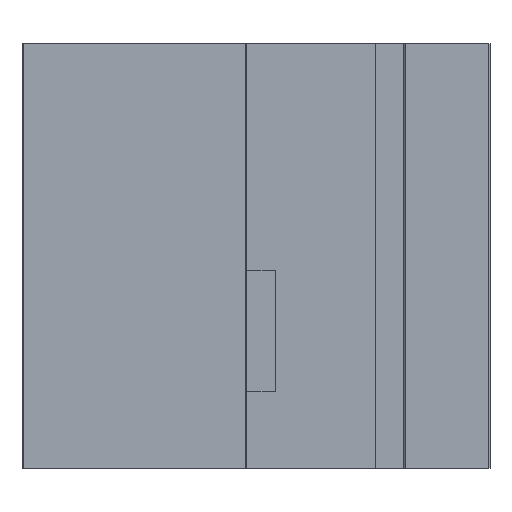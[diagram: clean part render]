
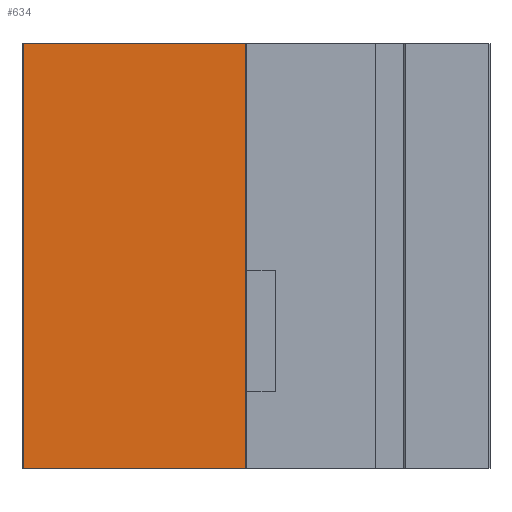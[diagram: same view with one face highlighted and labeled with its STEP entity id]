
A CAD part, front view. The second image highlights one B-rep face of the part: STEP entity #634.
In plain terms, the highlighted planar face has unit normal (0, -1, 0).
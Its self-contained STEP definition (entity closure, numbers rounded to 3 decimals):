
#634 = ADVANCED_FACE( '', ( #1814 ), #1815, .T. );
#808 = EDGE_CURVE( '', #1678, #1564, #2020, .T. );
#1022 = VERTEX_POINT( '', #2253 );
#1032 = EDGE_CURVE( '', #1518, #1022, #2267, .T. );
#1078 = EDGE_CURVE( '', #1678, #1518, #2317, .T. );
#1256 = EDGE_CURVE( '', #1564, #1022, #2515, .T. );
#1518 = VERTEX_POINT( '', #2814 );
#1564 = VERTEX_POINT( '', #2866 );
#1678 = VERTEX_POINT( '', #2990 );
#1814 = FACE_OUTER_BOUND( '', #3128, .T. );
#1815 = PLANE( '', #3129 );
#2020 = LINE( '', #3395, #3396 );
#2253 = CARTESIAN_POINT( '', ( -6.4, -3., -34. ) );
#2267 = LINE( '', #3742, #3743 );
#2317 = LINE( '', #3817, #3818 );
#2515 = LINE( '', #4093, #4094 );
#2814 = CARTESIAN_POINT( '', ( -6.4, -3., 0. ) );
#2866 = CARTESIAN_POINT( '', ( -24.2, -3., -34. ) );
#2990 = CARTESIAN_POINT( '', ( -24.2, -3., 0. ) );
#3128 = EDGE_LOOP( '', ( #4901, #4902, #4903, #4904 ) );
#3129 = AXIS2_PLACEMENT_3D( '', #4905, #4906, #4907 );
#3395 = CARTESIAN_POINT( '', ( -24.2, -3., 0. ) );
#3396 = VECTOR( '', #5172, 1. );
#3742 = CARTESIAN_POINT( '', ( -6.4, -3., 0. ) );
#3743 = VECTOR( '', #5445, 1. );
#3817 = CARTESIAN_POINT( '', ( -24.2, -3., 0. ) );
#3818 = VECTOR( '', #5496, 1. );
#4093 = CARTESIAN_POINT( '', ( -24.2, -3., -34. ) );
#4094 = VECTOR( '', #5715, 1. );
#4901 = ORIENTED_EDGE( '', *, *, #1256, .T. );
#4902 = ORIENTED_EDGE( '', *, *, #1032, .F. );
#4903 = ORIENTED_EDGE( '', *, *, #1078, .F. );
#4904 = ORIENTED_EDGE( '', *, *, #808, .T. );
#4905 = CARTESIAN_POINT( '', ( -24.2, -3., 0. ) );
#4906 = DIRECTION( '', ( 0., -1., 0. ) );
#4907 = DIRECTION( '', ( -1., 0., 0. ) );
#5172 = DIRECTION( '', ( 0., 0., -1. ) );
#5445 = DIRECTION( '', ( 0., 0., -1. ) );
#5496 = DIRECTION( '', ( 1., 0., 0. ) );
#5715 = DIRECTION( '', ( 1., 0., 0. ) );
